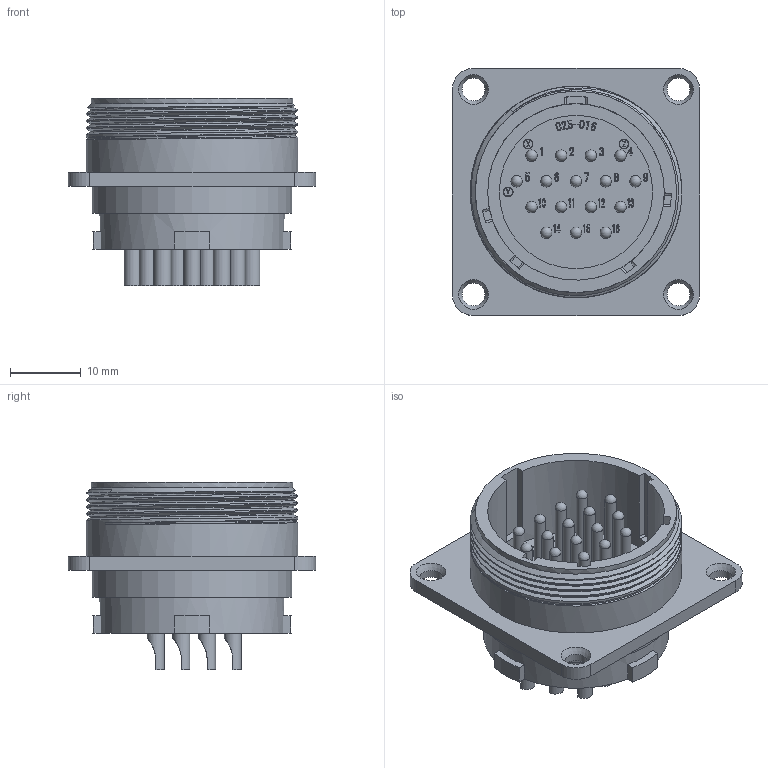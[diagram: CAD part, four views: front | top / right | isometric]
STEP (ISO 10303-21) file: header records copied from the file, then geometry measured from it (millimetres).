
FILE_DESCRIPTION (( 'STEP AP203' ), '1' );
FILE_NAME ('JMR2516M-D.STEP', '2021-06-18T02:30:18', ( '' ), ( '' ), 'SwSTEP 2.0', 'SolidWorks 2018', '' );
FILE_SCHEMA (( 'CONFIG_CONTROL_DESIGN' ));
Products named in the file (1): JMR2516M-D
Bounding box: 35 x 35 x 26.6 mm (x, y, z)
Volume: 8289.5 mm3; surface area: 7938.8 mm2
Topology: 1 solids, 1 shells, 1194 faces, 3300 edges, 2183 vertices
Faces by surface type: bspline 540, plane 501, cylinder 115, cone 22, sphere 16
Full cylindrical faces by diameter (mm): 1.2 x4, 1.4 x4, 1.6 x16, 1.7 x16, 2.4 x16, 3.2 x4, 21.3 x1, 21.7 x1, 25 x1, 26.2 x1, 28.2 x1, 28.5 x1, 29.96 x4
Entity records: 55899 total; most frequent: CARTESIAN_POINT 30250, ORIENTED_EDGE 6150, DIRECTION 3437, EDGE_CURVE 3075, VERTEX_POINT 2083, LINE 1749, VECTOR 1749, EDGE_LOOP 1392
